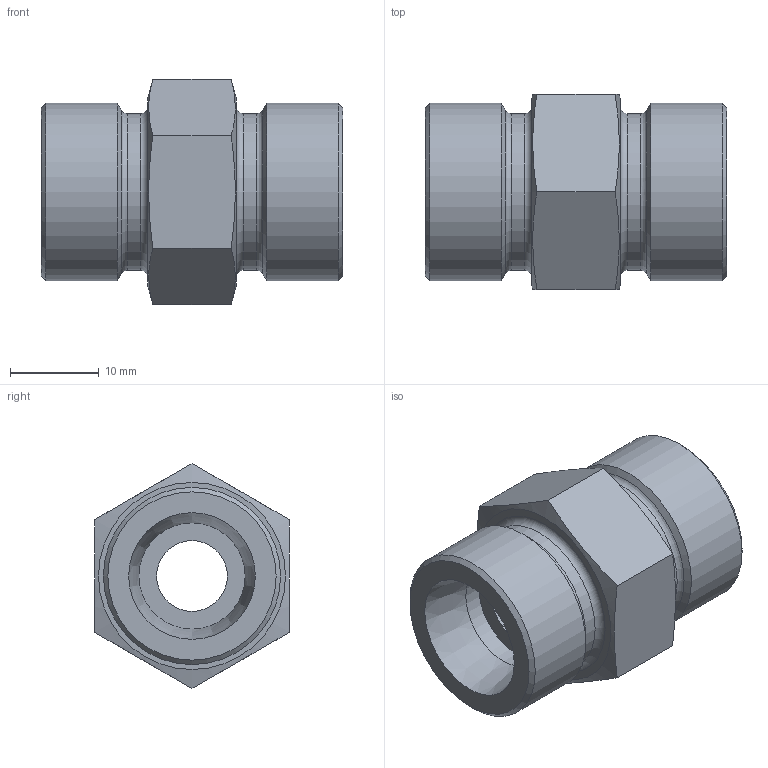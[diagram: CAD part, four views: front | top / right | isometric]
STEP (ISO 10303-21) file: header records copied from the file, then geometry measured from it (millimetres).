
FILE_DESCRIPTION( ( 'Unknown' ), '1' );
FILE_NAME( 'C:/Users/p.nanko/Desktop/3D SR/XG12S.stp', 'Unknown', ( 'Peter Nanko' ), ( 'Armaturen Arndt' ), 'PSStep 14.0', 'Solid Edge ST4', ' ' );
FILE_SCHEMA( ( 'AUTOMOTIVE_DESIGN { 1 0 10303 214 1 1 1 1 }' ) );
Length unit declared in the file: millimetre
Products named in the file (1): 1
Bounding box: 34 x 22 x 25.4 mm (x, y, z)
Volume: 8387.2 mm3; surface area: 4053.3 mm2
Topology: 1 solids, 1 shells, 31 faces, 65 edges, 40 vertices
Faces by surface type: plane 12, cone 8, cylinder 7, torus 4
Full cylindrical faces by diameter (mm): 8 x1, 12 x2, 17.7 x2, 20 x2
Entity records: 1036 total; most frequent: CARTESIAN_POINT 210, DIRECTION 118, ORIENTED_EDGE 84, AXIS2_PLACEMENT_3D 56, EDGE_LOOP 56, FACE_OUTER_BOUND 42, EDGE_CURVE 42, VERTEX_POINT 36
